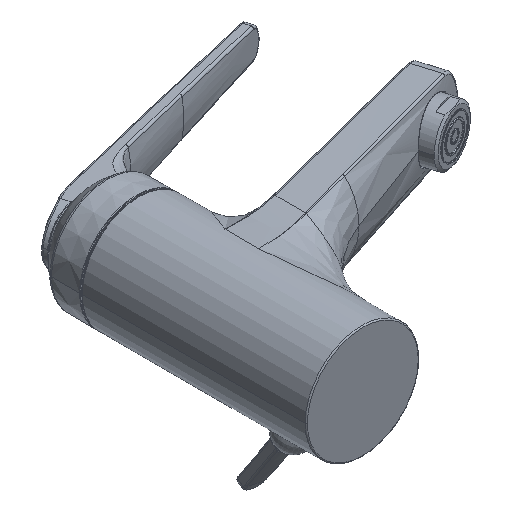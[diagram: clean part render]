
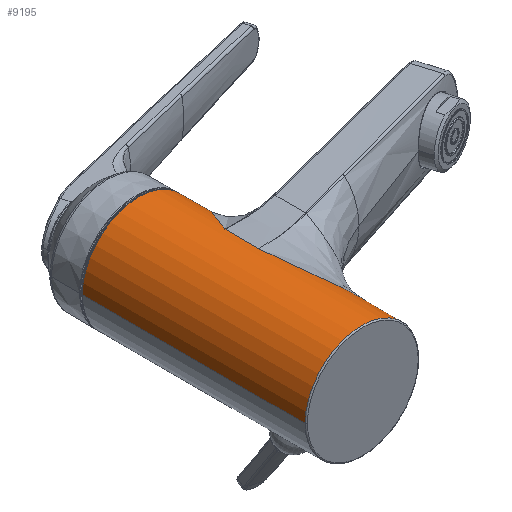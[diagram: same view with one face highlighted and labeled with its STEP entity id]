
A CAD part, isometric view. The second image highlights one B-rep face of the part: STEP entity #9195.
In plain terms, the highlighted cylindrical face has radius 25 mm (diameter 50 mm), a partial arc.
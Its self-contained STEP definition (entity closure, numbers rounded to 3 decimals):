
#2098=CARTESIAN_POINT('',(0.,0.5,0.));
#2099=DIRECTION('',(0.,-1.,0.));
#2100=DIRECTION('',(1.,0.,0.));
#2101=AXIS2_PLACEMENT_3D('',#2098,#2099,#2100);
#2103=DIRECTION('',(0.,-1.,0.));
#2104=VECTOR('',#2103,98.5);
#2105=CARTESIAN_POINT('',(-25.,99.,0.));
#2106=LINE('',#2105,#2104);
#2107=CARTESIAN_POINT('',(0.,99.,0.));
#2108=DIRECTION('',(0.,1.,0.));
#2109=DIRECTION('',(-1.,0.,0.));
#2110=AXIS2_PLACEMENT_3D('',#2107,#2108,#2109);
#2112=DIRECTION('',(0.,-1.,0.));
#2113=VECTOR('',#2112,5.563);
#2114=CARTESIAN_POINT('',(25.,99.,0.));
#2115=LINE('',#2114,#2113);
#2116=CARTESIAN_POINT('',(25.,93.437,0.));
#2117=CARTESIAN_POINT('',(25.,93.437,0.3));
#2118=CARTESIAN_POINT('',(24.989,93.428,0.899));
#2119=CARTESIAN_POINT('',(24.941,93.387,1.793));
#2120=CARTESIAN_POINT('',(24.861,93.317,2.682));
#2121=CARTESIAN_POINT('',(24.75,93.218,3.564));
#2122=CARTESIAN_POINT('',(24.608,93.088,4.441));
#2123=CARTESIAN_POINT('',(24.435,92.927,5.31));
#2124=CARTESIAN_POINT('',(24.232,92.734,6.171));
#2125=CARTESIAN_POINT('',(23.999,92.509,7.023));
#2126=CARTESIAN_POINT('',(23.736,92.252,7.865));
#2127=CARTESIAN_POINT('',(23.444,91.961,8.696));
#2128=CARTESIAN_POINT('',(23.124,91.638,9.515));
#2129=CARTESIAN_POINT('',(22.776,91.281,10.319));
#2130=CARTESIAN_POINT('',(22.402,90.889,11.109));
#2131=CARTESIAN_POINT('',(22.,90.458,11.886));
#2132=CARTESIAN_POINT('',(21.57,89.987,12.648));
#2133=CARTESIAN_POINT('',(21.113,89.473,13.398));
#2134=CARTESIAN_POINT('',(20.627,88.913,14.135));
#2135=CARTESIAN_POINT('',(20.111,88.303,14.86));
#2136=CARTESIAN_POINT('',(19.563,87.639,15.575));
#2137=CARTESIAN_POINT('',(18.981,86.916,16.278));
#2138=CARTESIAN_POINT('',(18.366,86.132,16.97));
#2139=CARTESIAN_POINT('',(17.718,85.283,17.645));
#2140=CARTESIAN_POINT('',(17.039,84.367,18.302));
#2141=CARTESIAN_POINT('',(16.331,83.381,18.937));
#2142=CARTESIAN_POINT('',(15.591,82.318,19.55));
#2143=CARTESIAN_POINT('',(14.82,81.169,20.142));
#2144=CARTESIAN_POINT('',(14.014,79.926,20.711));
#2145=CARTESIAN_POINT('',(13.177,78.582,21.253));
#2146=CARTESIAN_POINT('',(12.317,77.146,21.763));
#2147=CARTESIAN_POINT('',(11.442,75.625,22.235));
#2148=CARTESIAN_POINT('',(10.561,74.029,22.667));
#2149=CARTESIAN_POINT('',(9.681,72.366,23.056));
#2150=CARTESIAN_POINT('',(8.81,70.646,23.402));
#2151=CARTESIAN_POINT('',(8.242,69.473,23.604));
#2152=CARTESIAN_POINT('',(7.96,68.877,23.699));
#2154=DIRECTION('',(0.,-1.,0.));
#2155=VECTOR('',#2154,14.919);
#2156=CARTESIAN_POINT('',(7.96,68.877,23.699));
#2157=LINE('',#2156,#2155);
#2158=CARTESIAN_POINT('',(7.959,53.958,23.699));
#2159=CARTESIAN_POINT('',(8.046,53.2,23.67));
#2160=CARTESIAN_POINT('',(8.229,51.706,23.607));
#2161=CARTESIAN_POINT('',(8.53,49.524,23.501));
#2162=CARTESIAN_POINT('',(8.856,47.399,23.38));
#2163=CARTESIAN_POINT('',(9.207,45.326,23.244));
#2164=CARTESIAN_POINT('',(9.584,43.305,23.091));
#2165=CARTESIAN_POINT('',(9.987,41.332,22.92));
#2166=CARTESIAN_POINT('',(10.416,39.405,22.729));
#2167=CARTESIAN_POINT('',(10.871,37.521,22.515));
#2168=CARTESIAN_POINT('',(11.352,35.678,22.276));
#2169=CARTESIAN_POINT('',(11.861,33.873,22.01));
#2170=CARTESIAN_POINT('',(12.402,32.105,21.71));
#2171=CARTESIAN_POINT('',(12.975,30.372,21.373));
#2172=CARTESIAN_POINT('',(13.576,28.693,20.997));
#2173=CARTESIAN_POINT('',(14.194,27.084,20.585));
#2174=CARTESIAN_POINT('',(14.823,25.562,20.137));
#2175=CARTESIAN_POINT('',(15.453,24.137,19.657));
#2176=CARTESIAN_POINT('',(16.077,22.817,19.151));
#2177=CARTESIAN_POINT('',(16.683,21.607,18.625));
#2178=CARTESIAN_POINT('',(17.265,20.504,18.087));
#2179=CARTESIAN_POINT('',(17.828,19.497,17.532));
#2180=CARTESIAN_POINT('',(18.371,18.574,16.962));
#2181=CARTESIAN_POINT('',(18.897,17.723,16.374));
#2182=CARTESIAN_POINT('',(19.405,16.938,15.769));
#2183=CARTESIAN_POINT('',(19.893,16.211,15.148));
#2184=CARTESIAN_POINT('',(20.365,15.538,14.508));
#2185=CARTESIAN_POINT('',(20.819,14.916,13.849));
#2186=CARTESIAN_POINT('',(21.255,14.342,13.17));
#2187=CARTESIAN_POINT('',(21.67,13.817,12.475));
#2188=CARTESIAN_POINT('',(22.065,13.336,11.763));
#2189=CARTESIAN_POINT('',(22.437,12.895,11.037));
#2190=CARTESIAN_POINT('',(22.787,12.493,10.295));
#2191=CARTESIAN_POINT('',(23.115,12.127,9.535));
#2192=CARTESIAN_POINT('',(23.422,11.797,8.756));
#2193=CARTESIAN_POINT('',(23.705,11.503,7.957));
#2194=CARTESIAN_POINT('',(23.965,11.242,7.138));
#2195=CARTESIAN_POINT('',(24.199,11.013,6.298));
#2196=CARTESIAN_POINT('',(24.407,10.813,5.437));
#2197=CARTESIAN_POINT('',(24.586,10.644,4.56));
#2198=CARTESIAN_POINT('',(24.735,10.508,3.666));
#2199=CARTESIAN_POINT('',(24.853,10.404,2.761));
#2200=CARTESIAN_POINT('',(24.937,10.331,1.846));
#2201=CARTESIAN_POINT('',(24.989,10.29,0.925));
#2202=CARTESIAN_POINT('',(25.,10.281,0.308));
#2203=CARTESIAN_POINT('',(25.,10.281,0.));
#2205=DIRECTION('',(0.,-1.,0.));
#2206=VECTOR('',#2205,9.781);
#2207=CARTESIAN_POINT('',(25.,10.281,0.));
#2208=LINE('',#2207,#2206);
#2846=CARTESIAN_POINT('',(7.96,68.877,23.699));
#2857=CARTESIAN_POINT('',(25.,93.437,0.));
#2881=CARTESIAN_POINT('',(7.959,53.958,23.699));
#2950=CARTESIAN_POINT('',(25.,10.281,0.));
#4935=VERTEX_POINT('',#2857);
#4943=VERTEX_POINT('',#2950);
#4967=VERTEX_POINT('',#2846);
#4991=VERTEX_POINT('',#2881);
#4996=CARTESIAN_POINT('',(-25.,0.5,0.));
#4997=CARTESIAN_POINT('',(25.,0.5,0.));
#4998=VERTEX_POINT('',#4996);
#4999=VERTEX_POINT('',#4997);
#5004=CARTESIAN_POINT('',(25.,99.,0.));
#5005=CARTESIAN_POINT('',(-25.,99.,0.));
#5006=VERTEX_POINT('',#5004);
#5007=VERTEX_POINT('',#5005);
#9173=CARTESIAN_POINT('',(0.,115.489,0.));
#9174=DIRECTION('',(0.,1.,0.));
#9175=DIRECTION('',(-1.,0.,0.));
#9176=AXIS2_PLACEMENT_3D('',#9173,#9174,#9175);
#9177=CYLINDRICAL_SURFACE('',#9176,25.);
#9179=ORIENTED_EDGE('',*,*,#9178,.T.);
#9181=ORIENTED_EDGE('',*,*,#9180,.F.);
#9182=ORIENTED_EDGE('',*,*,#9155,.T.);
#9184=ORIENTED_EDGE('',*,*,#9183,.T.);
#9186=ORIENTED_EDGE('',*,*,#9185,.T.);
#9188=ORIENTED_EDGE('',*,*,#9187,.T.);
#9190=ORIENTED_EDGE('',*,*,#9189,.T.);
#9192=ORIENTED_EDGE('',*,*,#9191,.T.);
#9193=EDGE_LOOP('',(#9179,#9181,#9182,#9184,#9186,#9188,#9190,#9192));
#9194=FACE_OUTER_BOUND('',#9193,.F.);
#2102=CIRCLE('',#2101,25.);
#2111=CIRCLE('',#2110,25.);
#2153=B_SPLINE_CURVE_WITH_KNOTS('',3,(#2116,#2117,#2118,#2119,#2120,#2121,#2122,
#2123,#2124,#2125,#2126,#2127,#2128,#2129,#2130,#2131,#2132,#2133,#2134,#2135,
#2136,#2137,#2138,#2139,#2140,#2141,#2142,#2143,#2144,#2145,#2146,#2147,#2148,
#2149,#2150,#2151,#2152),.UNSPECIFIED.,.F.,.F.,(4,1,1,1,1,1,1,1,1,1,1,1,1,1,1,1,
1,1,1,1,1,1,1,1,1,1,1,1,1,1,1,1,1,1,4),(0.,0.029,
0.059,0.088,0.118,0.147,
0.176,0.206,0.235,0.265,
0.294,0.324,0.353,0.382,
0.412,0.441,0.471,0.5,0.529,
0.559,0.588,0.618,0.647,
0.676,0.706,0.735,0.765,
0.794,0.824,0.853,0.882,
0.912,0.941,0.971,1.),.UNSPECIFIED.);
#2204=B_SPLINE_CURVE_WITH_KNOTS('',3,(#2158,#2159,#2160,#2161,#2162,#2163,#2164,
#2165,#2166,#2167,#2168,#2169,#2170,#2171,#2172,#2173,#2174,#2175,#2176,#2177,
#2178,#2179,#2180,#2181,#2182,#2183,#2184,#2185,#2186,#2187,#2188,#2189,#2190,
#2191,#2192,#2193,#2194,#2195,#2196,#2197,#2198,#2199,#2200,#2201,#2202,#2203),
.UNSPECIFIED.,.F.,.F.,(4,1,1,1,1,1,1,1,1,1,1,1,1,1,1,1,1,1,1,1,1,1,1,1,1,1,1,1,
1,1,1,1,1,1,1,1,1,1,1,1,1,1,1,4),(0.,0.023,0.047,
0.07,0.093,0.116,0.14,
0.163,0.186,0.209,0.233,
0.256,0.279,0.302,0.326,
0.349,0.372,0.395,0.419,
0.442,0.465,0.488,0.512,
0.535,0.558,0.581,0.605,
0.628,0.651,0.674,0.698,
0.721,0.744,0.767,0.791,
0.814,0.837,0.86,0.884,
0.907,0.93,0.953,0.977,1.),
.UNSPECIFIED.);
#9155=EDGE_CURVE('',#5007,#5006,#2111,.T.);
#9178=EDGE_CURVE('',#4999,#4998,#2102,.T.);
#9180=EDGE_CURVE('',#5007,#4998,#2106,.T.);
#9183=EDGE_CURVE('',#5006,#4935,#2115,.T.);
#9185=EDGE_CURVE('',#4935,#4967,#2153,.T.);
#9187=EDGE_CURVE('',#4967,#4991,#2157,.T.);
#9189=EDGE_CURVE('',#4991,#4943,#2204,.T.);
#9191=EDGE_CURVE('',#4943,#4999,#2208,.T.);
#9195=ADVANCED_FACE('',(#9194),#9177,.T.);
